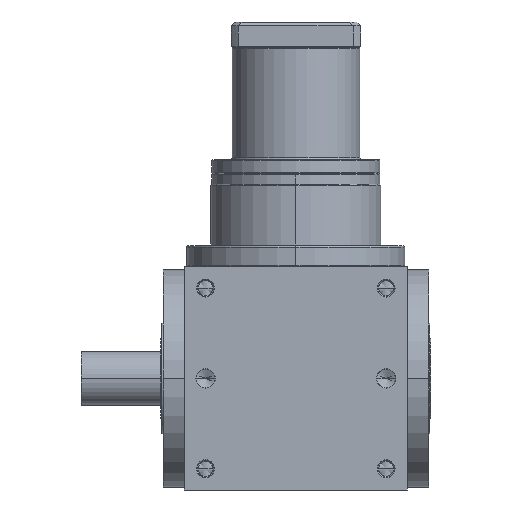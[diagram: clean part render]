
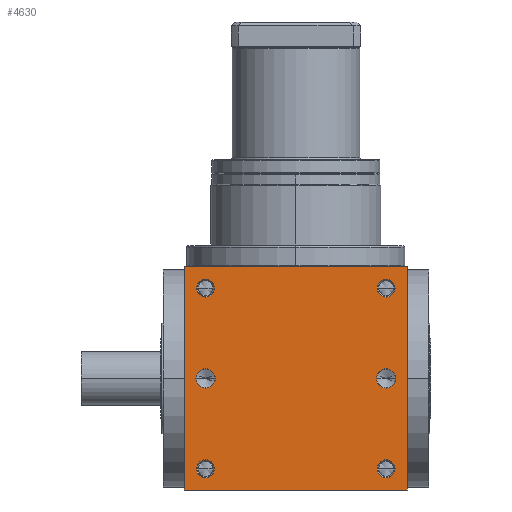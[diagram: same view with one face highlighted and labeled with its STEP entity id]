
A CAD part, front view. The second image highlights one B-rep face of the part: STEP entity #4630.
In plain terms, the highlighted planar face has unit normal (0, -1, 0).
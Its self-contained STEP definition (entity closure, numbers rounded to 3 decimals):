
#5=DIRECTION('',(1.,0.,0.));
#6=VECTOR('',#5,210.);
#7=CARTESIAN_POINT('',(-105.,-105.,-105.));
#8=LINE('',#7,#6);
#155=DIRECTION('',(0.,0.,1.));
#156=VECTOR('',#155,210.);
#157=CARTESIAN_POINT('',(105.,-105.,-105.));
#158=LINE('',#157,#156);
#209=DIRECTION('',(0.,0.,1.));
#210=VECTOR('',#209,210.);
#211=CARTESIAN_POINT('',(-105.,-105.,-105.));
#212=LINE('',#211,#210);
#213=CARTESIAN_POINT('',(85.,-105.,85.));
#214=DIRECTION('',(0.,1.,0.));
#215=DIRECTION('',(-1.,0.,0.));
#216=AXIS2_PLACEMENT_3D('',#213,#214,#215);
#218=CARTESIAN_POINT('',(85.,-105.,85.));
#219=DIRECTION('',(0.,1.,0.));
#220=DIRECTION('',(1.,0.,0.));
#221=AXIS2_PLACEMENT_3D('',#218,#219,#220);
#223=CARTESIAN_POINT('',(-85.,-105.,85.));
#224=DIRECTION('',(0.,1.,0.));
#225=DIRECTION('',(-1.,0.,0.));
#226=AXIS2_PLACEMENT_3D('',#223,#224,#225);
#228=CARTESIAN_POINT('',(-85.,-105.,85.));
#229=DIRECTION('',(0.,1.,0.));
#230=DIRECTION('',(1.,0.,0.));
#231=AXIS2_PLACEMENT_3D('',#228,#229,#230);
#233=CARTESIAN_POINT('',(85.,-105.,-85.));
#234=DIRECTION('',(0.,1.,0.));
#235=DIRECTION('',(-1.,0.,0.));
#236=AXIS2_PLACEMENT_3D('',#233,#234,#235);
#238=CARTESIAN_POINT('',(85.,-105.,-85.));
#239=DIRECTION('',(0.,1.,0.));
#240=DIRECTION('',(1.,0.,0.));
#241=AXIS2_PLACEMENT_3D('',#238,#239,#240);
#243=CARTESIAN_POINT('',(-85.,-105.,-85.));
#244=DIRECTION('',(0.,1.,0.));
#245=DIRECTION('',(-1.,0.,0.));
#246=AXIS2_PLACEMENT_3D('',#243,#244,#245);
#248=CARTESIAN_POINT('',(-85.,-105.,-85.));
#249=DIRECTION('',(0.,1.,0.));
#250=DIRECTION('',(1.,0.,0.));
#251=AXIS2_PLACEMENT_3D('',#248,#249,#250);
#253=CARTESIAN_POINT('',(-85.,-105.,0.));
#254=DIRECTION('',(0.,1.,0.));
#255=DIRECTION('',(1.,0.,0.));
#256=AXIS2_PLACEMENT_3D('',#253,#254,#255);
#258=CARTESIAN_POINT('',(-85.,-105.,0.));
#259=DIRECTION('',(0.,1.,0.));
#260=DIRECTION('',(-1.,0.,0.));
#261=AXIS2_PLACEMENT_3D('',#258,#259,#260);
#263=CARTESIAN_POINT('',(85.,-105.,0.));
#264=DIRECTION('',(0.,1.,0.));
#265=DIRECTION('',(1.,0.,0.));
#266=AXIS2_PLACEMENT_3D('',#263,#264,#265);
#268=CARTESIAN_POINT('',(85.,-105.,0.));
#269=DIRECTION('',(0.,1.,0.));
#270=DIRECTION('',(-1.,0.,0.));
#271=AXIS2_PLACEMENT_3D('',#268,#269,#270);
#285=DIRECTION('',(1.,0.,0.));
#286=VECTOR('',#285,210.);
#287=CARTESIAN_POINT('',(-105.,-105.,105.));
#288=LINE('',#287,#286);
#3731=CARTESIAN_POINT('',(-105.,-105.,-105.));
#3733=VERTEX_POINT('',#3731);
#3734=CARTESIAN_POINT('',(105.,-105.,-105.));
#3735=VERTEX_POINT('',#3734);
#3739=CARTESIAN_POINT('',(-105.,-105.,105.));
#3741=VERTEX_POINT('',#3739);
#3742=CARTESIAN_POINT('',(105.,-105.,105.));
#3743=VERTEX_POINT('',#3742);
#3910=CARTESIAN_POINT('',(76.6,-105.,85.));
#3911=CARTESIAN_POINT('',(93.4,-105.,85.));
#3912=VERTEX_POINT('',#3910);
#3913=VERTEX_POINT('',#3911);
#3918=CARTESIAN_POINT('',(-93.4,-105.,85.));
#3919=CARTESIAN_POINT('',(-76.6,-105.,85.));
#3920=VERTEX_POINT('',#3918);
#3921=VERTEX_POINT('',#3919);
#3926=CARTESIAN_POINT('',(76.6,-105.,-85.));
#3927=CARTESIAN_POINT('',(93.4,-105.,-85.));
#3928=VERTEX_POINT('',#3926);
#3929=VERTEX_POINT('',#3927);
#3934=CARTESIAN_POINT('',(-93.4,-105.,-85.));
#3935=CARTESIAN_POINT('',(-76.6,-105.,-85.));
#3936=VERTEX_POINT('',#3934);
#3937=VERTEX_POINT('',#3935);
#4276=CARTESIAN_POINT('',(-75.95,-105.,
0.));
#4277=CARTESIAN_POINT('',(-94.05,-105.,
0.));
#4278=VERTEX_POINT('',#4276);
#4279=VERTEX_POINT('',#4277);
#4284=CARTESIAN_POINT('',(94.05,-105.,0.));
#4285=CARTESIAN_POINT('',(75.95,-105.,0.));
#4286=VERTEX_POINT('',#4284);
#4287=VERTEX_POINT('',#4285);
#4582=CARTESIAN_POINT('',(-105.,-105.,-105.));
#4583=DIRECTION('',(0.,-1.,0.));
#4584=DIRECTION('',(1.,0.,0.));
#4585=AXIS2_PLACEMENT_3D('',#4582,#4583,#4584);
#4586=PLANE('',#4585);
#4587=ORIENTED_EDGE('',*,*,#4422,.F.);
#4588=ORIENTED_EDGE('',*,*,#4465,.T.);
#4590=ORIENTED_EDGE('',*,*,#4589,.T.);
#4591=ORIENTED_EDGE('',*,*,#4544,.F.);
#4592=EDGE_LOOP('',(#4587,#4588,#4590,#4591));
#4593=FACE_OUTER_BOUND('',#4592,.F.);
#4595=ORIENTED_EDGE('',*,*,#4594,.F.);
#4597=ORIENTED_EDGE('',*,*,#4596,.F.);
#4598=EDGE_LOOP('',(#4595,#4597));
#4599=FACE_BOUND('',#4598,.F.);
#4601=ORIENTED_EDGE('',*,*,#4600,.F.);
#4603=ORIENTED_EDGE('',*,*,#4602,.F.);
#4604=EDGE_LOOP('',(#4601,#4603));
#4605=FACE_BOUND('',#4604,.F.);
#4607=ORIENTED_EDGE('',*,*,#4606,.F.);
#4609=ORIENTED_EDGE('',*,*,#4608,.F.);
#4610=EDGE_LOOP('',(#4607,#4609));
#4611=FACE_BOUND('',#4610,.F.);
#4613=ORIENTED_EDGE('',*,*,#4612,.F.);
#4615=ORIENTED_EDGE('',*,*,#4614,.F.);
#4616=EDGE_LOOP('',(#4613,#4615));
#4617=FACE_BOUND('',#4616,.F.);
#4619=ORIENTED_EDGE('',*,*,#4618,.F.);
#4621=ORIENTED_EDGE('',*,*,#4620,.F.);
#4622=EDGE_LOOP('',(#4619,#4621));
#4623=FACE_BOUND('',#4622,.F.);
#4625=ORIENTED_EDGE('',*,*,#4624,.F.);
#4627=ORIENTED_EDGE('',*,*,#4626,.F.);
#4628=EDGE_LOOP('',(#4625,#4627));
#4629=FACE_BOUND('',#4628,.F.);
#4630=ADVANCED_FACE('',(#4593,#4599,#4605,#4611,#4617,#4623,#4629),#4586,.T.);
#217=CIRCLE('',#216,8.4);
#222=CIRCLE('',#221,8.4);
#227=CIRCLE('',#226,8.4);
#232=CIRCLE('',#231,8.4);
#237=CIRCLE('',#236,8.4);
#242=CIRCLE('',#241,8.4);
#247=CIRCLE('',#246,8.4);
#252=CIRCLE('',#251,8.4);
#257=CIRCLE('',#256,9.05);
#262=CIRCLE('',#261,9.05);
#267=CIRCLE('',#266,9.05);
#272=CIRCLE('',#271,9.05);
#4422=EDGE_CURVE('',#3733,#3735,#8,.T.);
#4465=EDGE_CURVE('',#3733,#3741,#212,.T.);
#4544=EDGE_CURVE('',#3735,#3743,#158,.T.);
#4589=EDGE_CURVE('',#3741,#3743,#288,.T.);
#4594=EDGE_CURVE('',#3912,#3913,#217,.T.);
#4596=EDGE_CURVE('',#3913,#3912,#222,.T.);
#4600=EDGE_CURVE('',#3920,#3921,#227,.T.);
#4602=EDGE_CURVE('',#3921,#3920,#232,.T.);
#4606=EDGE_CURVE('',#3928,#3929,#237,.T.);
#4608=EDGE_CURVE('',#3929,#3928,#242,.T.);
#4612=EDGE_CURVE('',#3936,#3937,#247,.T.);
#4614=EDGE_CURVE('',#3937,#3936,#252,.T.);
#4618=EDGE_CURVE('',#4278,#4279,#257,.T.);
#4620=EDGE_CURVE('',#4279,#4278,#262,.T.);
#4624=EDGE_CURVE('',#4286,#4287,#267,.T.);
#4626=EDGE_CURVE('',#4287,#4286,#272,.T.);
